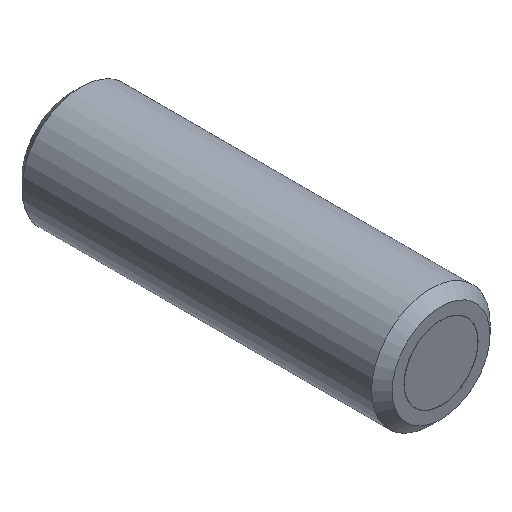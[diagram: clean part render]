
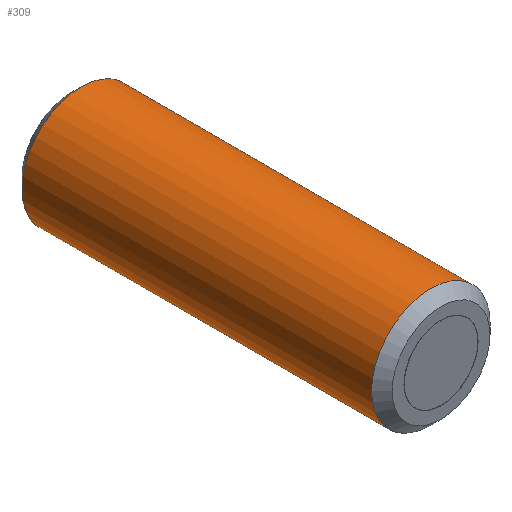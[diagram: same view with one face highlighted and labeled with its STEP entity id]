
A CAD part, isometric view. The second image highlights one B-rep face of the part: STEP entity #309.
In plain terms, the highlighted cylindrical face has radius 8 mm (diameter 16 mm), a full revolution.
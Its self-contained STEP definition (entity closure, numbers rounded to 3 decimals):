
#21=CYLINDRICAL_SURFACE('',#346,8.);
#84=ORIENTED_EDGE('',*,*,#159,.F.);
#85=ORIENTED_EDGE('',*,*,#158,.T.);
#158=EDGE_CURVE('',#196,#196,#217,.T.);
#159=EDGE_CURVE('',#197,#197,#218,.T.);
#196=VERTEX_POINT('',#494);
#197=VERTEX_POINT('',#497);
#217=CIRCLE('',#345,8.);
#218=CIRCLE('',#347,8.);
#234=EDGE_LOOP('',(#84));
#235=EDGE_LOOP('',(#85));
#264=FACE_BOUND('',#234,.T.);
#265=FACE_BOUND('',#235,.T.);
#309=ADVANCED_FACE('',(#264,#265),#21,.T.);
#345=AXIS2_PLACEMENT_3D('',#493,#392,#393);
#346=AXIS2_PLACEMENT_3D('',#495,#394,#395);
#347=AXIS2_PLACEMENT_3D('',#496,#396,#397);
#392=DIRECTION('',(0.,-1.,0.));
#393=DIRECTION('',(0.,0.,-1.));
#394=DIRECTION('',(0.,-1.,0.));
#395=DIRECTION('',(0.,0.,-1.));
#396=DIRECTION('',(0.,-1.,0.));
#397=DIRECTION('',(0.,0.,-1.));
#493=CARTESIAN_POINT('',(0.,48.6,0.));
#494=CARTESIAN_POINT('',(0.,48.6,-8.));
#495=CARTESIAN_POINT('',(0.,0.,0.));
#496=CARTESIAN_POINT('',(0.,1.4,0.));
#497=CARTESIAN_POINT('',(0.,1.4,-8.));
